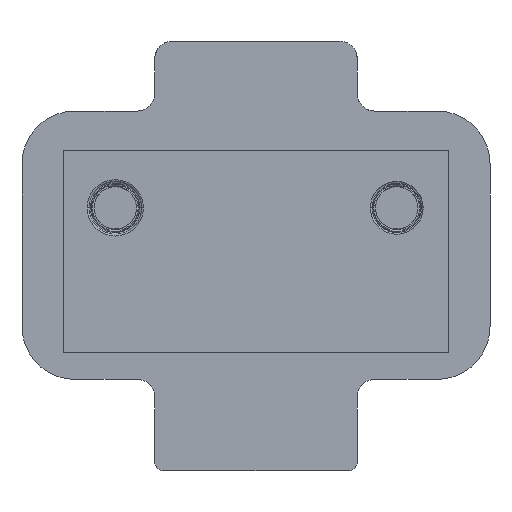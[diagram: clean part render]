
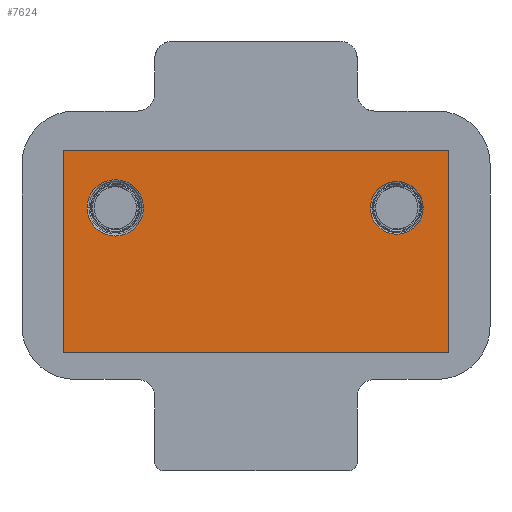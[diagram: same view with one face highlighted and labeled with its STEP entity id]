
A CAD part, front view. The second image highlights one B-rep face of the part: STEP entity #7624.
In plain terms, the highlighted planar face has unit normal (0, -1, 0).
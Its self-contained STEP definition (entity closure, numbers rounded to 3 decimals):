
#305 = EDGE_CURVE ( 'NONE', #5413, #6641, #9349, .T. ) ;
#573 = VERTEX_POINT ( 'NONE', #9415 ) ;
#590 = EDGE_LOOP ( 'NONE', ( #11281, #3437, #8096, #5081 ) ) ;
#598 = CARTESIAN_POINT ( 'NONE',  ( 20.984, 1.162, 65.694 ) ) ;
#1051 = AXIS2_PLACEMENT_3D ( 'NONE', #2181, #5098, #8116 ) ;
#1625 = AXIS2_PLACEMENT_3D ( 'NONE', #10945, #5005, #10846 ) ;
#2181 = CARTESIAN_POINT ( 'NONE',  ( -16.916, 1.162, 59.199 ) ) ;
#2375 = DIRECTION ( 'NONE',  ( -1., 0., 0. ) ) ;
#2447 = CARTESIAN_POINT ( 'NONE',  ( 12.084, 1.162, 59.199 ) ) ;
#2467 = VERTEX_POINT ( 'NONE', #3703 ) ;
#2603 = CIRCLE ( 'NONE', #1051, 3.2 ) ;
#2717 = CIRCLE ( 'NONE', #18847, 3.2 ) ;
#3284 = EDGE_CURVE ( 'NONE', #15225, #2467, #10569, .T. ) ;
#3437 = ORIENTED_EDGE ( 'NONE', *, *, #14240, .F. ) ;
#3493 = LINE ( 'NONE', #9531, #18421 ) ;
#3640 = PLANE ( 'NONE',  #18749 ) ;
#3703 = CARTESIAN_POINT ( 'NONE',  ( -22.816, 1.162, 65.694 ) ) ;
#3748 = VECTOR ( 'NONE', #10043, 1000. ) ;
#3800 = CARTESIAN_POINT ( 'NONE',  ( 15.084, 1.162, 59.199 ) ) ;
#3983 = EDGE_CURVE ( 'NONE', #10000, #573, #2717, .T. ) ;
#4105 = CARTESIAN_POINT ( 'NONE',  ( 21.584, 1.162, 42.7 ) ) ;
#4589 = DIRECTION ( 'NONE',  ( 0., 1., 0. ) ) ;
#5005 = DIRECTION ( 'NONE',  ( 0., -1., 0. ) ) ;
#5081 = ORIENTED_EDGE ( 'NONE', *, *, #6621, .F. ) ;
#5098 = DIRECTION ( 'NONE',  ( 0., 1., 0. ) ) ;
#5256 = CARTESIAN_POINT ( 'NONE',  ( -20.116, 1.162, 59.199 ) ) ;
#5413 = VERTEX_POINT ( 'NONE', #2447 ) ;
#5696 = DIRECTION ( 'NONE',  ( 0., 0., 1. ) ) ;
#6238 = AXIS2_PLACEMENT_3D ( 'NONE', #3800, #17012, #12744 ) ;
#6271 = EDGE_LOOP ( 'NONE', ( #9584, #10848 ) ) ;
#6621 = EDGE_CURVE ( 'NONE', #17736, #15225, #11781, .T. ) ;
#6641 = VERTEX_POINT ( 'NONE', #13148 ) ;
#6936 = VERTEX_POINT ( 'NONE', #598 ) ;
#7246 = CARTESIAN_POINT ( 'NONE',  ( 20.984, 1.162, 76.47 ) ) ;
#7624 = ADVANCED_FACE ( 'NONE', ( #12490, #11026, #16946 ), #3640, .F. ) ;
#8067 = DIRECTION ( 'NONE',  ( 1., 0., 0. ) ) ;
#8096 = ORIENTED_EDGE ( 'NONE', *, *, #3284, .F. ) ;
#8116 = DIRECTION ( 'NONE',  ( -1., 0., 0. ) ) ;
#8994 = LINE ( 'NONE', #7246, #13763 ) ;
#9294 = CARTESIAN_POINT ( 'NONE',  ( -22.816, 1.162, 44.77 ) ) ;
#9349 = CIRCLE ( 'NONE', #6238, 3. ) ;
#9374 = CIRCLE ( 'NONE', #1625, 3. ) ;
#9415 = CARTESIAN_POINT ( 'NONE',  ( -13.716, 1.162, 59.199 ) ) ;
#9531 = CARTESIAN_POINT ( 'NONE',  ( -22.816, 1.162, 65.694 ) ) ;
#9570 = CARTESIAN_POINT ( 'NONE',  ( -16.362, 1.162, 58.966 ) ) ;
#9584 = ORIENTED_EDGE ( 'NONE', *, *, #3983, .T. ) ;
#10000 = VERTEX_POINT ( 'NONE', #5256 ) ;
#10043 = DIRECTION ( 'NONE',  ( -1., 0., 0. ) ) ;
#10569 = LINE ( 'NONE', #9294, #13952 ) ;
#10846 = DIRECTION ( 'NONE',  ( 1., 0., 0. ) ) ;
#10848 = ORIENTED_EDGE ( 'NONE', *, *, #14637, .T. ) ;
#10945 = CARTESIAN_POINT ( 'NONE',  ( 15.084, 1.162, 59.199 ) ) ;
#11026 = FACE_BOUND ( 'NONE', #12929, .T. ) ;
#11281 = ORIENTED_EDGE ( 'NONE', *, *, #14393, .T. ) ;
#11781 = LINE ( 'NONE', #4105, #3748 ) ;
#12175 = DIRECTION ( 'NONE',  ( -1., 0., 0. ) ) ;
#12217 = EDGE_CURVE ( 'NONE', #6641, #5413, #9374, .T. ) ;
#12490 = FACE_OUTER_BOUND ( 'NONE', #590, .T. ) ;
#12744 = DIRECTION ( 'NONE',  ( 1., 0., 0. ) ) ;
#12929 = EDGE_LOOP ( 'NONE', ( #16458, #17049 ) ) ;
#13148 = CARTESIAN_POINT ( 'NONE',  ( 18.084, 1.162, 59.199 ) ) ;
#13763 = VECTOR ( 'NONE', #5696, 1000. ) ;
#13803 = CARTESIAN_POINT ( 'NONE',  ( -22.816, 1.162, 42.7 ) ) ;
#13952 = VECTOR ( 'NONE', #18141, 1000. ) ;
#14098 = CARTESIAN_POINT ( 'NONE',  ( 20.984, 1.162, 42.7 ) ) ;
#14240 = EDGE_CURVE ( 'NONE', #2467, #6936, #3493, .T. ) ;
#14393 = EDGE_CURVE ( 'NONE', #17736, #6936, #8994, .T. ) ;
#14637 = EDGE_CURVE ( 'NONE', #573, #10000, #2603, .T. ) ;
#14891 = CARTESIAN_POINT ( 'NONE',  ( -16.916, 1.162, 59.199 ) ) ;
#15225 = VERTEX_POINT ( 'NONE', #13803 ) ;
#16458 = ORIENTED_EDGE ( 'NONE', *, *, #12217, .F. ) ;
#16946 = FACE_BOUND ( 'NONE', #6271, .T. ) ;
#17012 = DIRECTION ( 'NONE',  ( 0., -1., 0. ) ) ;
#17049 = ORIENTED_EDGE ( 'NONE', *, *, #305, .F. ) ;
#17323 = DIRECTION ( 'NONE',  ( 0., 1., 0. ) ) ;
#17736 = VERTEX_POINT ( 'NONE', #14098 ) ;
#18141 = DIRECTION ( 'NONE',  ( 0., 0., 1. ) ) ;
#18421 = VECTOR ( 'NONE', #8067, 1000. ) ;
#18749 = AXIS2_PLACEMENT_3D ( 'NONE', #9570, #17323, #2375 ) ;
#18847 = AXIS2_PLACEMENT_3D ( 'NONE', #14891, #4589, #12175 ) ;
